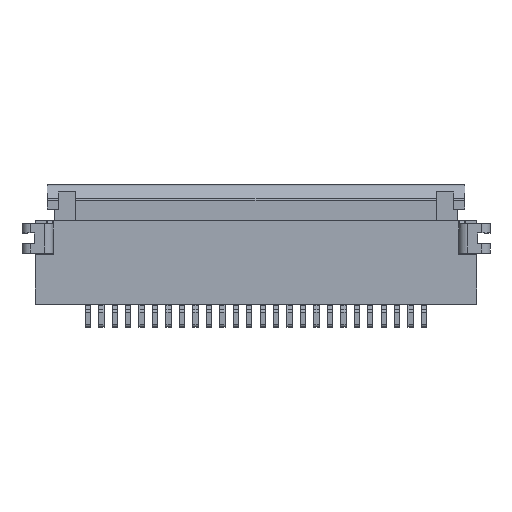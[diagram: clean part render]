
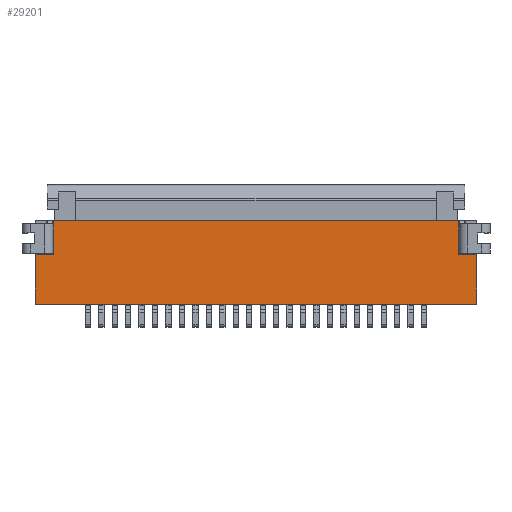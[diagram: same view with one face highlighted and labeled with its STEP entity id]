
A CAD part, top view. The second image highlights one B-rep face of the part: STEP entity #29201.
In plain terms, the highlighted planar face has unit normal (0, 0, 1).
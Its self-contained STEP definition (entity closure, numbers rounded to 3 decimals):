
#5=DIRECTION('',(0.,-1.,0.));
#6=VECTOR('',#5,1.85);
#7=CARTESIAN_POINT('',(-8.2,-1.25,1.55));
#8=LINE('',#7,#6);
#37=DIRECTION('',(-1.,0.,0.));
#38=VECTOR('',#37,0.67);
#39=CARTESIAN_POINT('',(-7.53,-1.25,1.55));
#40=LINE('',#39,#38);
#612=DIRECTION('',(1.,0.,0.));
#613=VECTOR('',#612,16.4);
#614=CARTESIAN_POINT('',(-8.2,-3.1,1.55));
#615=LINE('',#614,#613);
#1080=DIRECTION('',(0.,-1.,0.));
#1081=VECTOR('',#1080,1.25);
#1082=CARTESIAN_POINT('',(-7.53,0.,1.55));
#1083=LINE('',#1082,#1081);
#1084=DIRECTION('',(1.,0.,0.));
#1085=VECTOR('',#1084,15.06);
#1086=CARTESIAN_POINT('',(-7.53,0.,1.55));
#1087=LINE('',#1086,#1085);
#1088=DIRECTION('',(0.,-1.,0.));
#1089=VECTOR('',#1088,1.25);
#1090=CARTESIAN_POINT('',(7.53,0.,1.55));
#1091=LINE('',#1090,#1089);
#5762=DIRECTION('',(0.,-1.,0.));
#5763=VECTOR('',#5762,1.85);
#5764=CARTESIAN_POINT('',(8.2,-1.25,1.55));
#5765=LINE('',#5764,#5763);
#5770=DIRECTION('',(-1.,0.,0.));
#5771=VECTOR('',#5770,0.67);
#5772=CARTESIAN_POINT('',(8.2,-1.25,1.55));
#5773=LINE('',#5772,#5771);
#21463=CARTESIAN_POINT('',(-8.2,-3.1,1.55));
#21465=VERTEX_POINT('',#21463);
#21469=CARTESIAN_POINT('',(8.2,-3.1,1.55));
#21471=VERTEX_POINT('',#21469);
#21475=CARTESIAN_POINT('',(8.2,-1.25,1.55));
#21477=VERTEX_POINT('',#21475);
#21501=CARTESIAN_POINT('',(7.53,0.,1.55));
#21502=CARTESIAN_POINT('',(7.53,-1.25,1.55));
#21503=VERTEX_POINT('',#21501);
#21504=VERTEX_POINT('',#21502);
#21663=CARTESIAN_POINT('',(-7.53,-1.25,1.55));
#21664=VERTEX_POINT('',#21663);
#21719=CARTESIAN_POINT('',(-8.2,-1.25,1.55));
#21721=VERTEX_POINT('',#21719);
#21735=CARTESIAN_POINT('',(-7.53,0.,1.55));
#21736=VERTEX_POINT('',#21735);
#29181=CARTESIAN_POINT('',(-8.2,0.,1.55));
#29182=DIRECTION('',(0.,0.,1.));
#29183=DIRECTION('',(0.,-1.,0.));
#29184=AXIS2_PLACEMENT_3D('',#29181,#29182,#29183);
#29185=PLANE('',#29184);
#29186=ORIENTED_EDGE('',*,*,#28095,.F.);
#29188=ORIENTED_EDGE('',*,*,#29187,.F.);
#29190=ORIENTED_EDGE('',*,*,#29189,.T.);
#29192=ORIENTED_EDGE('',*,*,#29191,.T.);
#29194=ORIENTED_EDGE('',*,*,#29193,.F.);
#29196=ORIENTED_EDGE('',*,*,#29195,.T.);
#29197=ORIENTED_EDGE('',*,*,#28874,.F.);
#29198=ORIENTED_EDGE('',*,*,#28067,.F.);
#29199=EDGE_LOOP('',(#29186,#29188,#29190,#29192,#29194,#29196,#29197,#29198));
#29200=FACE_OUTER_BOUND('',#29199,.F.);
#29201=ADVANCED_FACE('',(#29200),#29185,.T.);
#28067=EDGE_CURVE('',#21721,#21465,#8,.T.);
#28095=EDGE_CURVE('',#21664,#21721,#40,.T.);
#28874=EDGE_CURVE('',#21465,#21471,#615,.T.);
#29187=EDGE_CURVE('',#21736,#21664,#1083,.T.);
#29189=EDGE_CURVE('',#21736,#21503,#1087,.T.);
#29191=EDGE_CURVE('',#21503,#21504,#1091,.T.);
#29193=EDGE_CURVE('',#21477,#21504,#5773,.T.);
#29195=EDGE_CURVE('',#21477,#21471,#5765,.T.);
